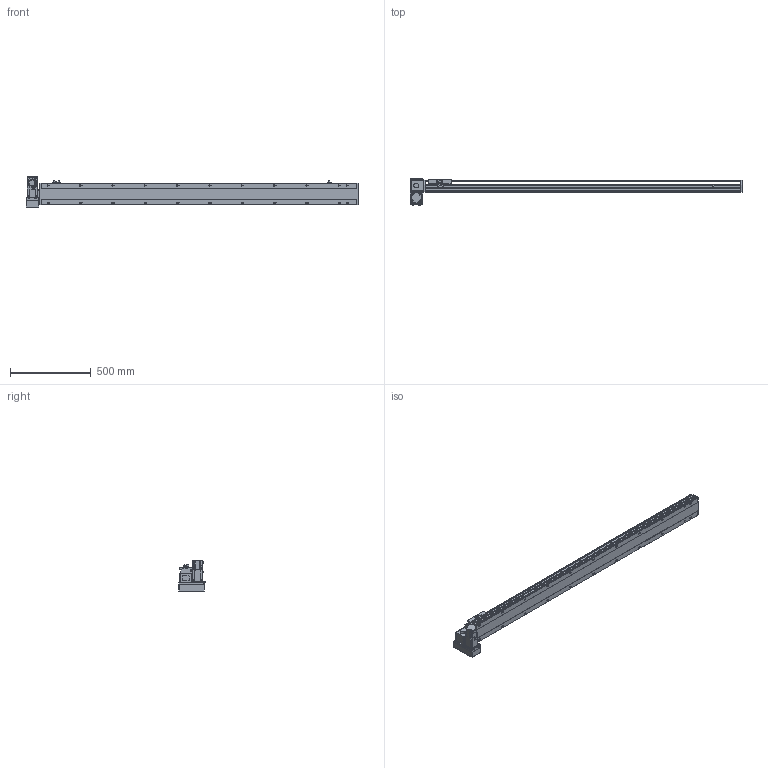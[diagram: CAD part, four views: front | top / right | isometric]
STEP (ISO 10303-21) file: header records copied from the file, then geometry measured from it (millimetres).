
FILE_DESCRIPTION( ( 'STEP AP214' ), '1' );
FILE_NAME( 'x:/temp/worker_27/temp/exporttempdir_6708_572_ombbx/format_0/PBS140-P40-S1700-LD-T40-C1-N(0).stp', '2022-06-06T05:55:45', ( 'License CC BY-ND 4.0' ), ( 'CADENAS' ), ' ', 'PARTsolutions', ' ' );
FILE_SCHEMA( ( 'AUTOMOTIVE_DESIGN { 1 0 10303 214 1 1 1 1 }' ) );
Length unit declared in the file: millimetre
Products named in the file (7): PBS140-P40-S1700-LD-T40-C1-N(0); _PBS140-S1700()_body; _PBS140T-LD_motors; _T40-p1; _PBS140_sliser; _PBS140_plant; _PBS140_sensor
Assembly tree (8 placements, depth 2):
  PBS140-P40-S1700-LD-T40-C1-N(0)
    _PBS140-S1700()_body
    _PBS140T-LD_motors
    _T40-p1
    _PBS140_sliser
    _PBS140_plant
    _PBS140_sensor  x3
Bounding box: 2054 x 162 x 189.7 mm (x, y, z)
Volume: 9445526.6 mm3; surface area: 1625841.8 mm2
Topology: 8 solids, 8 shells, 1123 faces, 2956 edges, 1931 vertices
Faces by surface type: plane 710, cylinder 355, cone 48, sphere 8, torus 2
Full cylindrical faces by diameter (mm): 3.242 x4, 4 x2, 4.134 x4, 4.4 x8, 4.5 x2, 4.8 x4, 4.917 x30, 5.5 x7, 6 x2, 7 x24, 7.5 x8, 8 x12, 8.5 x4, 10.5 x22, 14 x1, 30 x2, 50 x2
Entity records: 41215 total; most frequent: CARTESIAN_POINT 6755, DIRECTION 5407, ORIENTED_EDGE 5092, EDGE_CURVE 2546, AXIS2_PLACEMENT_3D 1897, VERTEX_POINT 1773, LINE 1613, VECTOR 1613
